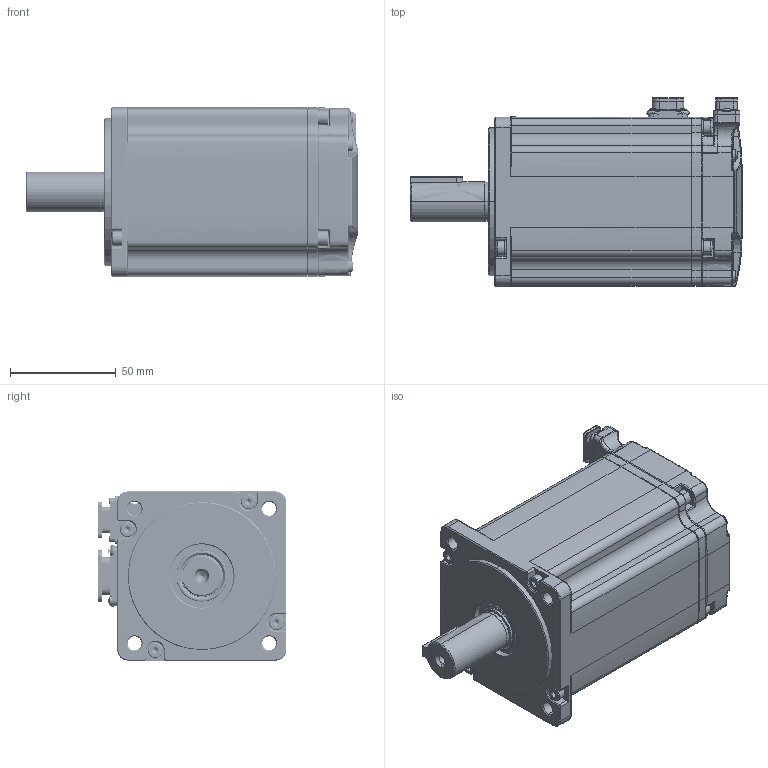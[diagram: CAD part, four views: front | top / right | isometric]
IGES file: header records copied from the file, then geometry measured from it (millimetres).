
Start section: SolidWorks IGES file using analytic representation for surfaces
Global section: file name: Z:\部门共同资料库\官网3D图\EM3Jnew\小型连接器电机\EM3J-10ALA223.IGS; native system: SolidWorks 2018; preprocessor: SolidWorks 2018; author: wangyitong; date: 231117.152801; units: millimetre
Bounding box: 157 x 89.3 x 80 mm (x, y, z)
Surface area: 119894.1 mm2 (no closed solid volume)
Topology: 0 solids, 0 shells, 2857 faces, 27603 edges, 27569 vertices
Faces by surface type: bspline 1728, revolution 1129
